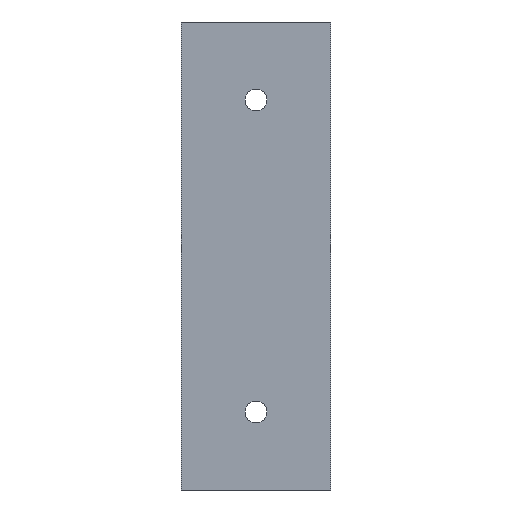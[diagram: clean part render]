
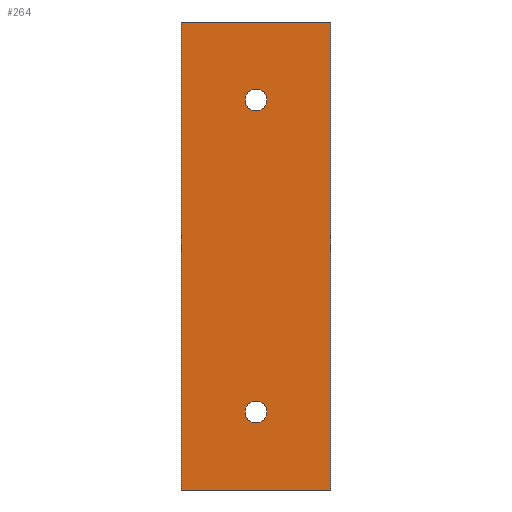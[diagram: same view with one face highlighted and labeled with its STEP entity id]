
A CAD part, front view. The second image highlights one B-rep face of the part: STEP entity #264.
In plain terms, the highlighted face is a extrusion surface.
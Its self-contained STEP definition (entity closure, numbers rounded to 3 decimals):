
#141=CARTESIAN_POINT('Control Point',(-24.,-5.,75.)) ;
#142=CARTESIAN_POINT('Control Point',(-24.,-5.,-75.)) ;
#146=CARTESIAN_POINT('Line Origine',(0.,-5.,-75.)) ;
#150=CARTESIAN_POINT('Vertex',(-24.,-5.,-75.)) ;
#152=CARTESIAN_POINT('Vertex',(24.,-5.,-75.)) ;
#155=CARTESIAN_POINT('Line Origine',(24.,-5.,0.)) ;
#159=CARTESIAN_POINT('Vertex',(24.,-5.,75.)) ;
#162=CARTESIAN_POINT('Line Origine',(0.,-5.,75.)) ;
#166=CARTESIAN_POINT('Vertex',(-24.,-5.,75.)) ;
#169=CARTESIAN_POINT('Line Origine',(-24.,-5.,0.)) ;
#181=CARTESIAN_POINT('Control Point',(3.5,-5.,50.)) ;
#182=CARTESIAN_POINT('Control Point',(3.5,-5.,49.267)) ;
#183=CARTESIAN_POINT('Control Point',(3.308,-5.,48.534)) ;
#184=CARTESIAN_POINT('Control Point',(2.923,-5.,47.868)) ;
#185=CARTESIAN_POINT('Control Point',(2.115,-5.,47.069)) ;
#186=CARTESIAN_POINT('Control Point',(1.09,-5.,46.644)) ;
#187=CARTESIAN_POINT('Control Point',(0.732,-5.,46.548)) ;
#188=CARTESIAN_POINT('Control Point',(-0.001,-5.,46.452)) ;
#189=CARTESIAN_POINT('Control Point',(-0.734,-5.,46.548)) ;
#190=CARTESIAN_POINT('Control Point',(-1.093,-5.,46.644)) ;
#191=CARTESIAN_POINT('Control Point',(-2.116,-5.,47.07)) ;
#192=CARTESIAN_POINT('Control Point',(-2.924,-5.,47.869)) ;
#193=CARTESIAN_POINT('Control Point',(-3.308,-5.,48.535)) ;
#194=CARTESIAN_POINT('Control Point',(-3.5,-5.,49.267)) ;
#195=CARTESIAN_POINT('Control Point',(-3.5,-5.,50.)) ;
#196=CARTESIAN_POINT('Vertex',(3.5,-5.,50.)) ;
#198=CARTESIAN_POINT('Vertex',(-3.5,-5.,50.)) ;
#202=CARTESIAN_POINT('Control Point',(-3.5,-5.,50.)) ;
#203=CARTESIAN_POINT('Control Point',(-3.5,-5.,50.367)) ;
#204=CARTESIAN_POINT('Control Point',(-3.452,-5.,50.733)) ;
#205=CARTESIAN_POINT('Control Point',(-3.356,-5.,51.091)) ;
#206=CARTESIAN_POINT('Control Point',(-2.931,-5.,52.116)) ;
#207=CARTESIAN_POINT('Control Point',(-2.131,-5.,52.924)) ;
#208=CARTESIAN_POINT('Control Point',(-1.465,-5.,53.309)) ;
#209=CARTESIAN_POINT('Control Point',(-0.365,-5.,53.596)) ;
#210=CARTESIAN_POINT('Control Point',(0.734,-5.,53.452)) ;
#211=CARTESIAN_POINT('Control Point',(1.093,-5.,53.356)) ;
#212=CARTESIAN_POINT('Control Point',(2.116,-5.,52.93)) ;
#213=CARTESIAN_POINT('Control Point',(2.924,-5.,52.131)) ;
#214=CARTESIAN_POINT('Control Point',(3.308,-5.,51.465)) ;
#215=CARTESIAN_POINT('Control Point',(3.5,-5.,50.733)) ;
#216=CARTESIAN_POINT('Control Point',(3.5,-5.,50.)) ;
#223=CARTESIAN_POINT('Control Point',(3.5,-5.,-50.)) ;
#224=CARTESIAN_POINT('Control Point',(3.5,-5.,-50.733)) ;
#225=CARTESIAN_POINT('Control Point',(3.308,-5.,-51.466)) ;
#226=CARTESIAN_POINT('Control Point',(2.923,-5.,-52.132)) ;
#227=CARTESIAN_POINT('Control Point',(2.115,-5.,-52.931)) ;
#228=CARTESIAN_POINT('Control Point',(1.09,-5.,-53.356)) ;
#229=CARTESIAN_POINT('Control Point',(0.732,-5.,-53.452)) ;
#230=CARTESIAN_POINT('Control Point',(-0.001,-5.,-53.548)) ;
#231=CARTESIAN_POINT('Control Point',(-0.734,-5.,-53.452)) ;
#232=CARTESIAN_POINT('Control Point',(-1.093,-5.,-53.356)) ;
#233=CARTESIAN_POINT('Control Point',(-2.116,-5.,-52.93)) ;
#234=CARTESIAN_POINT('Control Point',(-2.924,-5.,-52.131)) ;
#235=CARTESIAN_POINT('Control Point',(-3.308,-5.,-51.465)) ;
#236=CARTESIAN_POINT('Control Point',(-3.5,-5.,-50.733)) ;
#237=CARTESIAN_POINT('Control Point',(-3.5,-5.,-50.)) ;
#238=CARTESIAN_POINT('Vertex',(3.5,-5.,-50.)) ;
#240=CARTESIAN_POINT('Vertex',(-3.5,-5.,-50.)) ;
#244=CARTESIAN_POINT('Control Point',(-3.5,-5.,-50.)) ;
#245=CARTESIAN_POINT('Control Point',(-3.5,-5.,-49.633)) ;
#246=CARTESIAN_POINT('Control Point',(-3.452,-5.,-49.267)) ;
#247=CARTESIAN_POINT('Control Point',(-3.356,-5.,-48.909)) ;
#248=CARTESIAN_POINT('Control Point',(-2.931,-5.,-47.884)) ;
#249=CARTESIAN_POINT('Control Point',(-2.131,-5.,-47.076)) ;
#250=CARTESIAN_POINT('Control Point',(-1.465,-5.,-46.691)) ;
#251=CARTESIAN_POINT('Control Point',(-0.365,-5.,-46.404)) ;
#252=CARTESIAN_POINT('Control Point',(0.734,-5.,-46.548)) ;
#253=CARTESIAN_POINT('Control Point',(1.093,-5.,-46.644)) ;
#254=CARTESIAN_POINT('Control Point',(2.116,-5.,-47.07)) ;
#255=CARTESIAN_POINT('Control Point',(2.924,-5.,-47.869)) ;
#256=CARTESIAN_POINT('Control Point',(3.308,-5.,-48.535)) ;
#257=CARTESIAN_POINT('Control Point',(3.5,-5.,-49.267)) ;
#258=CARTESIAN_POINT('Control Point',(3.5,-5.,-50.)) ;
#143=DIRECTION('Vector Direction',(1.,0.,0.)) ;
#147=DIRECTION('Vector Direction',(1.,0.,0.)) ;
#156=DIRECTION('Vector Direction',(0.,0.,-1.)) ;
#163=DIRECTION('Vector Direction',(1.,0.,0.)) ;
#170=DIRECTION('Vector Direction',(0.,0.,-1.)) ;
#175=ORIENTED_EDGE('',*,*,#154,.T.) ;
#176=ORIENTED_EDGE('',*,*,#161,.T.) ;
#177=ORIENTED_EDGE('',*,*,#168,.T.) ;
#178=ORIENTED_EDGE('',*,*,#173,.T.) ;
#219=ORIENTED_EDGE('',*,*,#200,.T.) ;
#220=ORIENTED_EDGE('',*,*,#217,.T.) ;
#261=ORIENTED_EDGE('',*,*,#242,.T.) ;
#262=ORIENTED_EDGE('',*,*,#259,.T.) ;
#221=FACE_BOUND('',#218,.T.) ;
#263=FACE_BOUND('',#260,.T.) ;
#144=VECTOR('Extrusion Surface Vector',#143,1.) ;
#148=VECTOR('Line Direction',#147,1.) ;
#157=VECTOR('Line Direction',#156,1.) ;
#164=VECTOR('Line Direction',#163,1.) ;
#171=VECTOR('Line Direction',#170,1.) ;
#264=ADVANCED_FACE('Superficie.3',(#179,#221,#263),#145,.T.) ;
#140=B_SPLINE_CURVE_WITH_KNOTS('',1,(#141,#142),.UNSPECIFIED.,.F.,.U.,(2,2),(-75.,75.),.UNSPECIFIED.) ;
#180=B_SPLINE_CURVE_WITH_KNOTS('',5,(#181,#182,#183,#184,#185,#186,#187,#188,#189,#190,#191,#192,#193,#194,#195),.UNSPECIFIED.,.F.,.U.,(6,3,3,3,6),(0.,5.185,7.777,10.369,15.55),.UNSPECIFIED.) ;
#201=B_SPLINE_CURVE_WITH_KNOTS('',5,(#202,#203,#204,#205,#206,#207,#208,#209,#210,#211,#212,#213,#214,#215,#216),.UNSPECIFIED.,.F.,.U.,(6,3,3,3,6),(0.,2.592,7.777,10.369,15.55),.UNSPECIFIED.) ;
#222=B_SPLINE_CURVE_WITH_KNOTS('',5,(#223,#224,#225,#226,#227,#228,#229,#230,#231,#232,#233,#234,#235,#236,#237),.UNSPECIFIED.,.F.,.U.,(6,3,3,3,6),(0.,5.185,7.777,10.369,15.55),.UNSPECIFIED.) ;
#243=B_SPLINE_CURVE_WITH_KNOTS('',5,(#244,#245,#246,#247,#248,#249,#250,#251,#252,#253,#254,#255,#256,#257,#258),.UNSPECIFIED.,.F.,.U.,(6,3,3,3,6),(0.,2.592,7.777,10.369,15.55),.UNSPECIFIED.) ;
#154=EDGE_CURVE('',#151,#153,#149,.T.) ;
#161=EDGE_CURVE('',#153,#160,#158,.F.) ;
#168=EDGE_CURVE('',#160,#167,#165,.F.) ;
#173=EDGE_CURVE('',#167,#151,#172,.T.) ;
#200=EDGE_CURVE('',#197,#199,#180,.T.) ;
#217=EDGE_CURVE('',#199,#197,#201,.T.) ;
#242=EDGE_CURVE('',#239,#241,#222,.T.) ;
#259=EDGE_CURVE('',#241,#239,#243,.T.) ;
#174=EDGE_LOOP('',(#175,#176,#177,#178)) ;
#218=EDGE_LOOP('',(#219,#220)) ;
#260=EDGE_LOOP('',(#261,#262)) ;
#179=FACE_OUTER_BOUND('',#174,.T.) ;
#149=LINE('Line',#146,#148) ;
#158=LINE('Line',#155,#157) ;
#165=LINE('Line',#162,#164) ;
#172=LINE('Line',#169,#171) ;
#145=SURFACE_OF_LINEAR_EXTRUSION('generated tabulated cylinder',#140,#144) ;
#151=VERTEX_POINT('',#150) ;
#153=VERTEX_POINT('',#152) ;
#160=VERTEX_POINT('',#159) ;
#167=VERTEX_POINT('',#166) ;
#197=VERTEX_POINT('',#196) ;
#199=VERTEX_POINT('',#198) ;
#239=VERTEX_POINT('',#238) ;
#241=VERTEX_POINT('',#240) ;
